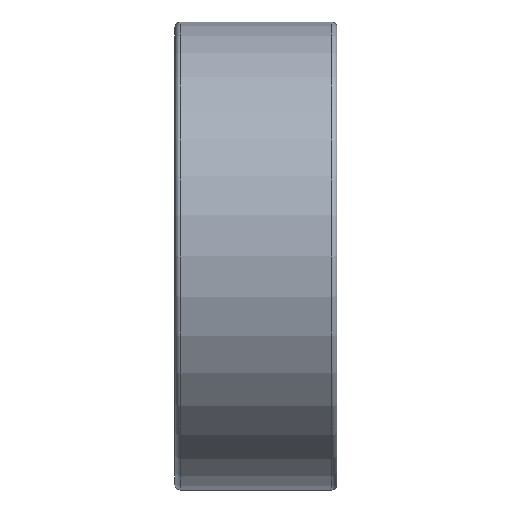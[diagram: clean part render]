
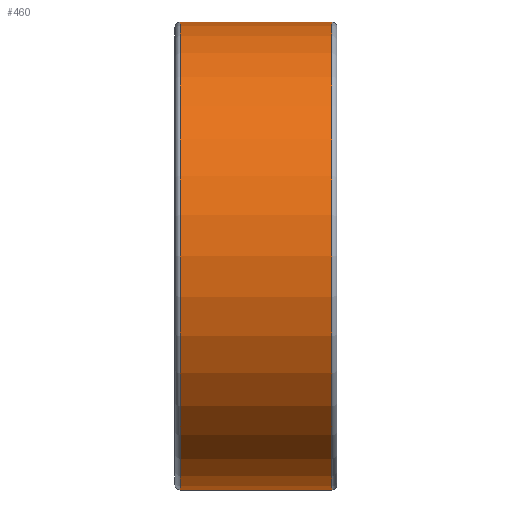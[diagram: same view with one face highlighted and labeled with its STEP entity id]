
A CAD part, front view. The second image highlights one B-rep face of the part: STEP entity #460.
In plain terms, the highlighted cylindrical face has radius 13 mm (diameter 26 mm), a full revolution.
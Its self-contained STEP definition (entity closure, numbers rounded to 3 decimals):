
#32=CYLINDRICAL_SURFACE('',#640,13.);
#76=ORIENTED_EDGE('',*,*,#135,.T.);
#77=ORIENTED_EDGE('',*,*,#147,.F.);
#135=EDGE_CURVE('',#318,#318,#177,.T.);
#147=EDGE_CURVE('',#330,#330,#189,.T.);
#177=CIRCLE('',#615,13.);
#189=CIRCLE('',#639,13.);
#244=EDGE_LOOP('',(#76));
#245=EDGE_LOOP('',(#77));
#318=VERTEX_POINT('',#925);
#330=VERTEX_POINT('',#961);
#387=FACE_BOUND('',#244,.T.);
#388=FACE_BOUND('',#245,.T.);
#460=ADVANCED_FACE('',(#387,#388),#32,.T.);
#615=AXIS2_PLACEMENT_3D('',#924,#735,#736);
#639=AXIS2_PLACEMENT_3D('',#960,#783,#784);
#640=AXIS2_PLACEMENT_3D('',#962,#785,#786);
#735=DIRECTION('',(1.,0.,0.));
#736=DIRECTION('',(0.,0.,-1.));
#783=DIRECTION('',(1.,0.,0.));
#784=DIRECTION('',(0.,0.,-1.));
#785=DIRECTION('',(1.,0.,0.));
#786=DIRECTION('',(0.,0.,-1.));
#924=CARTESIAN_POINT('',(0.3,0.,0.));
#925=CARTESIAN_POINT('',(0.3,0.,-13.));
#960=CARTESIAN_POINT('',(8.7,0.,0.));
#961=CARTESIAN_POINT('',(8.7,0.,-13.));
#962=CARTESIAN_POINT('',(50.,0.,0.));
